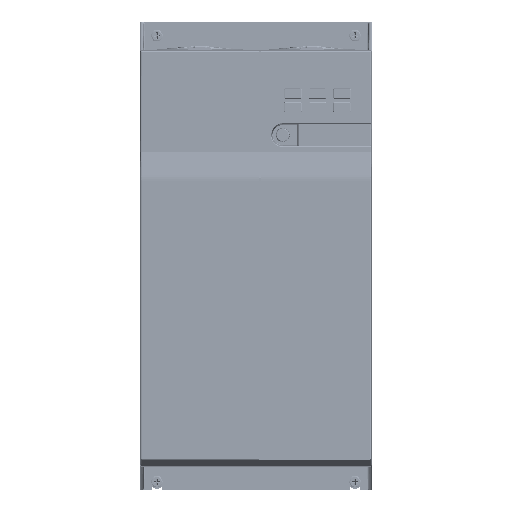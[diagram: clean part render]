
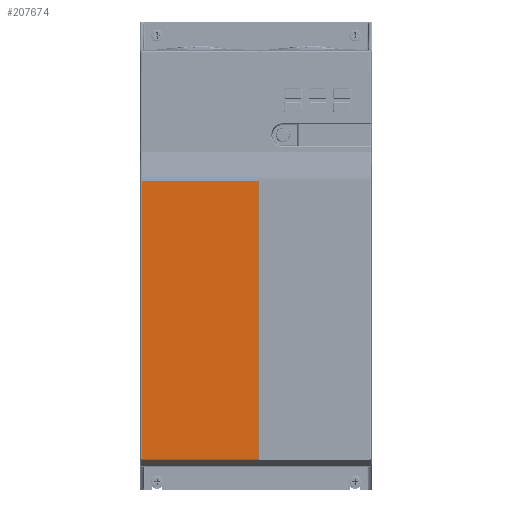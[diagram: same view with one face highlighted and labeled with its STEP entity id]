
A CAD part, top view. The second image highlights one B-rep face of the part: STEP entity #207674.
In plain terms, the highlighted planar face has unit normal (0, 0, 1).
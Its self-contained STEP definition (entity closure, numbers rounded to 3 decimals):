
#20866=FACE_OUTER_BOUND('',#32609,.T.);
#32609=EDGE_LOOP('',(#139838,#139839,#139840,#139841));
#45567=LINE('',#291899,#67014);
#45569=LINE('',#291940,#67016);
#45572=LINE('',#291977,#67019);
#45573=LINE('',#291978,#67020);
#67014=VECTOR('',#237266,203.385);
#67016=VECTOR('',#237284,85.958);
#67019=VECTOR('',#237297,85.958);
#67020=VECTOR('',#237298,203.385);
#88514=VERTEX_POINT('',#291894);
#88515=VERTEX_POINT('',#291898);
#88518=VERTEX_POINT('',#291939);
#88519=VERTEX_POINT('',#291976);
#108466=EDGE_CURVE('',#88514,#88515,#45567,.T.);
#108473=EDGE_CURVE('',#88518,#88515,#45569,.T.);
#108478=EDGE_CURVE('',#88514,#88519,#45572,.T.);
#108479=EDGE_CURVE('',#88518,#88519,#45573,.T.);
#139838=ORIENTED_EDGE('',*,*,#108466,.F.);
#139839=ORIENTED_EDGE('',*,*,#108478,.T.);
#139840=ORIENTED_EDGE('',*,*,#108479,.F.);
#139841=ORIENTED_EDGE('',*,*,#108473,.T.);
#200572=PLANE('',#220048);
#207674=ADVANCED_FACE('',(#20866),#200572,.T.);
#220048=AXIS2_PLACEMENT_3D('',#291975,#237295,#237296);
#237266=DIRECTION('',(0.,1.,0.));
#237284=DIRECTION('',(-1.,0.,0.));
#237295=DIRECTION('center_axis',(0.,0.,1.));
#237296=DIRECTION('ref_axis',(0.,-1.,0.));
#237297=DIRECTION('',(1.,0.,0.));
#237298=DIRECTION('',(0.,-1.,0.));
#291894=CARTESIAN_POINT('',(-83.458,-131.485,157.7));
#291898=CARTESIAN_POINT('',(-83.458,71.9,157.7));
#291899=CARTESIAN_POINT('',(-83.458,-131.485,157.7));
#291939=CARTESIAN_POINT('',(2.5,71.9,157.7));
#291940=CARTESIAN_POINT('',(2.5,71.9,157.7));
#291975=CARTESIAN_POINT('Origin',(85.,71.9,157.7));
#291976=CARTESIAN_POINT('',(2.5,-131.485,157.7));
#291977=CARTESIAN_POINT('',(-83.458,-131.485,157.7));
#291978=CARTESIAN_POINT('',(2.5,71.9,157.7));
